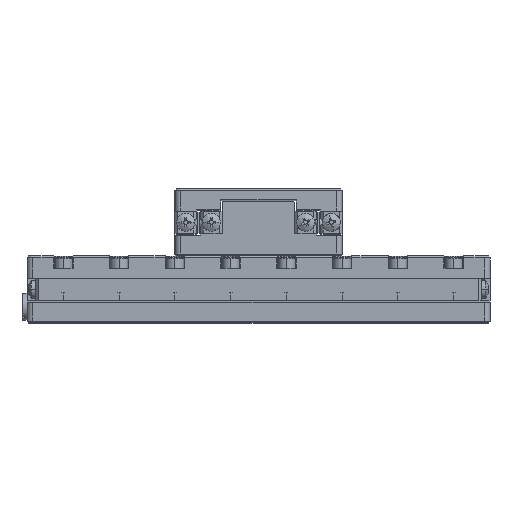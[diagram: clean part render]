
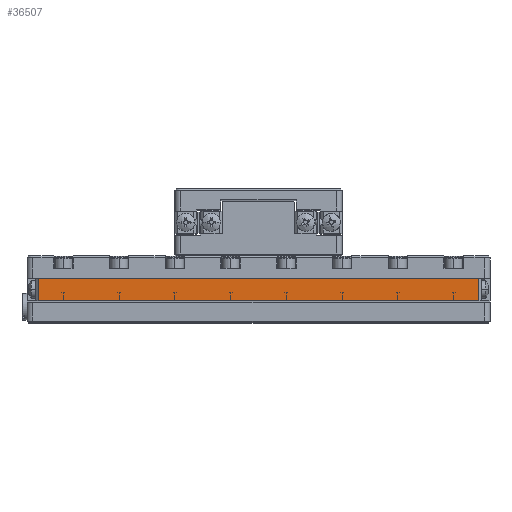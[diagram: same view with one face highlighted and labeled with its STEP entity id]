
A CAD part, top view. The second image highlights one B-rep face of the part: STEP entity #36507.
In plain terms, the highlighted planar face has unit normal (0, 0, 1).
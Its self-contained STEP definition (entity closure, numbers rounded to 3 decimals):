
#3501 = ORIENTED_EDGE ( 'NONE', *, *, #103617, .F. ) ;
#8627 = CARTESIAN_POINT ( 'NONE',  ( -36.655, -3.093, 14.99 ) ) ;
#12172 = VECTOR ( 'NONE', #21608, 1000. ) ;
#18375 = AXIS2_PLACEMENT_3D ( 'NONE', #25228, #178923, #107368 ) ;
#20572 = LINE ( 'NONE', #156815, #163014 ) ;
#21608 = DIRECTION ( 'NONE',  ( 1., 0., 0. ) ) ;
#22175 = PLANE ( 'NONE',  #18375 ) ;
#23354 = DIRECTION ( 'NONE',  ( -1., 0., 0. ) ) ;
#25228 = CARTESIAN_POINT ( 'NONE',  ( -36.655, 0.907, 14.99 ) ) ;
#26910 = ORIENTED_EDGE ( 'NONE', *, *, #59034, .F. ) ;
#30773 = VERTEX_POINT ( 'NONE', #142748 ) ;
#30802 = DIRECTION ( 'NONE',  ( 0., -1., 0. ) ) ;
#31456 = CARTESIAN_POINT ( 'NONE',  ( -36.155, 0.907, 14.99 ) ) ;
#36507 = ADVANCED_FACE ( 'NONE', ( #74197 ), #22175, .F. ) ;
#43873 = DIRECTION ( 'NONE',  ( 0., 1., 0. ) ) ;
#48046 = CARTESIAN_POINT ( 'NONE',  ( 42.845, 0.907, 14.99 ) ) ;
#54063 = VECTOR ( 'NONE', #43873, 1000. ) ;
#54702 = EDGE_LOOP ( 'NONE', ( #26910, #178024, #3501, #102159 ) ) ;
#55872 = VERTEX_POINT ( 'NONE', #48046 ) ;
#59034 = EDGE_CURVE ( 'NONE', #55872, #85310, #20572, .T. ) ;
#72910 = EDGE_CURVE ( 'NONE', #116139, #55872, #165515, .T. ) ;
#74197 = FACE_OUTER_BOUND ( 'NONE', #54702, .T. ) ;
#85310 = VERTEX_POINT ( 'NONE', #105105 ) ;
#102159 = ORIENTED_EDGE ( 'NONE', *, *, #124989, .F. ) ;
#103617 = EDGE_CURVE ( 'NONE', #30773, #116139, #163431, .T. ) ;
#105105 = CARTESIAN_POINT ( 'NONE',  ( 42.845, -3.093, 14.99 ) ) ;
#107368 = DIRECTION ( 'NONE',  ( 0., 1., 0. ) ) ;
#116139 = VERTEX_POINT ( 'NONE', #140482 ) ;
#124989 = EDGE_CURVE ( 'NONE', #85310, #30773, #163720, .T. ) ;
#133036 = VECTOR ( 'NONE', #23354, 1000. ) ;
#140482 = CARTESIAN_POINT ( 'NONE',  ( -36.155, 0.907, 14.99 ) ) ;
#142748 = CARTESIAN_POINT ( 'NONE',  ( -36.155, -3.093, 14.99 ) ) ;
#156815 = CARTESIAN_POINT ( 'NONE',  ( 42.845, 0.907, 14.99 ) ) ;
#161163 = CARTESIAN_POINT ( 'NONE',  ( -36.655, 0.907, 14.99 ) ) ;
#163014 = VECTOR ( 'NONE', #30802, 1000. ) ;
#163431 = LINE ( 'NONE', #31456, #54063 ) ;
#163720 = LINE ( 'NONE', #8627, #133036 ) ;
#165515 = LINE ( 'NONE', #161163, #12172 ) ;
#178024 = ORIENTED_EDGE ( 'NONE', *, *, #72910, .F. ) ;
#178923 = DIRECTION ( 'NONE',  ( 0., 0., -1. ) ) ;
